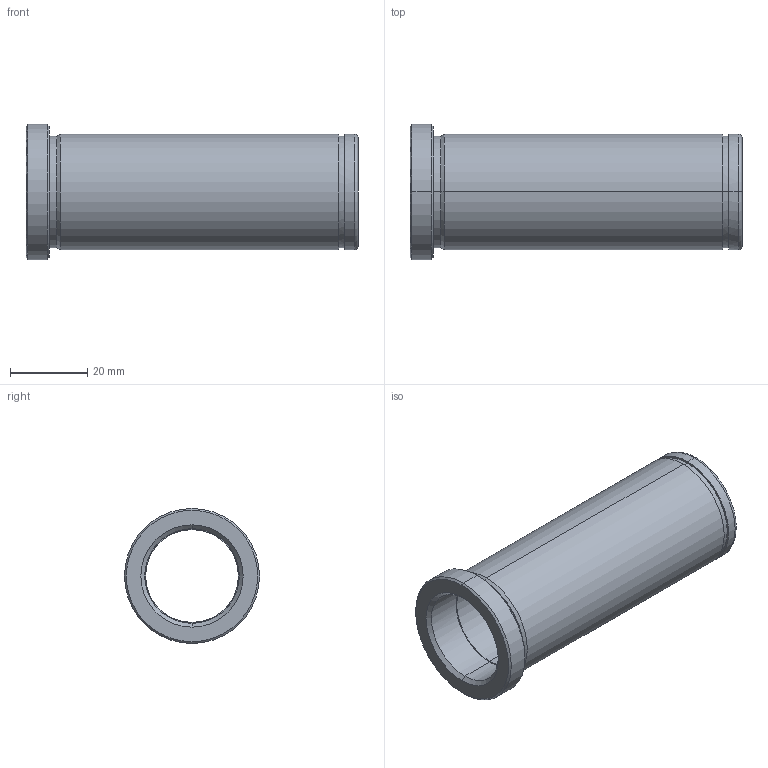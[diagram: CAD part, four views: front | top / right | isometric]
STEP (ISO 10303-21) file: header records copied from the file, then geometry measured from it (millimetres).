
FILE_DESCRIPTION(('CATIA V5 STEP Exchange'),'2;1');
FILE_NAME('C:\Users\Utente\Desktop\IO LAVORO\3D X SITO CF\X SITO\PLASTICA\553\553-24X86.stp','2021-05-25T18:18:58+00:00',('none'),('none'),'CATIA Version 5 Release 20 GA (IN-10)','CATIA V5 STEP AP203','none');
FILE_SCHEMA(('CONFIG_CONTROL_DESIGN'));
Length unit declared in the file: millimetre
Products named in the file (1): 553-24X86
Bounding box: 86 x 35 x 35 mm (x, y, z)
Volume: 22914.2 mm3; surface area: 15660.4 mm2
Topology: 1 solids, 1 shells, 32 faces, 102 edges, 76 vertices
Faces by surface type: cylinder 14, cone 8, plane 6, torus 4
Entity records: 1334 total; most frequent: CARTESIAN_POINT 389, ORIENTED_EDGE 204, DIRECTION 152, EDGE_CURVE 102, AXIS2_PLACEMENT_3D 99, VERTEX_POINT 76, CIRCLE 66, EDGE_LOOP 38
